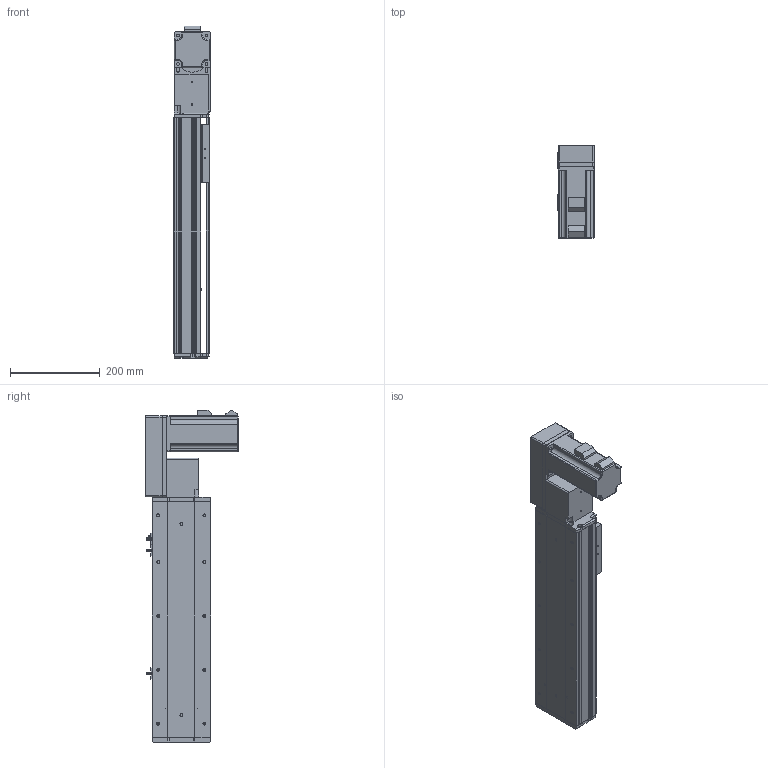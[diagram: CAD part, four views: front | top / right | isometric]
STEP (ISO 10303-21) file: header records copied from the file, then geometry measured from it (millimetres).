
FILE_DESCRIPTION (( 'STEP AP214' ), '1' );
FILE_NAME ('KSD130B-S300-MRB-CM .STEP', '2019-09-21T06:29:35', ( '微软用户' ), ( '微软中国' ), 'SwSTEP 2.0', 'SolidWorks 2014', '' );
FILE_SCHEMA (( 'AUTOMOTIVE_DESIGN' ));
Length unit declared in the file: millimetre
Products named in the file (12): KSD130B-S300-MRB-CM ; 侂狟750W侜督; 130宽模组保护罩上下左右折-同步带; 130宽模组马达安装板连板左右折同步带; U倰嫖萇EEㄜSX672; 覜茼え100遵圉猾敕; 130宽盖板半封闭同步带-300行程; 130宽马达安装板同步带右-改镜向_默认<按加工>; 130宽马达安装板同步带半封闭; 130宽同步带安装座半封闭; 130宽端盖同步带半封闭; 130宽底板半封闭同步带-300行程
Assembly tree (13 placements, depth 2):
  KSD130B-S300-MRB-CM 
    130宽底板半封闭同步带-300行程
    130宽端盖同步带半封闭
    130宽同步带安装座半封闭
    130宽马达安装板同步带半封闭
    130宽马达安装板同步带右-改镜向_默认<按加工>
    130宽盖板半封闭同步带-300行程
    覜茼え100遵圉猾敕
    U倰嫖萇EEㄜSX672  x3
    130宽模组马达安装板连板左右折同步带
    130宽模组保护罩上下左右折-同步带
    侂狟750W侜督
Bounding box: 81 x 206.5 x 740 mm (x, y, z)
Volume: 3222685.4 mm3; surface area: 787654.1 mm2
Topology: 13 solids, 13 shells, 1393 faces, 3872 edges, 2480 vertices
Faces by surface type: cylinder 634, plane 621, cone 122, torus 8, sphere 8
Entity records: 43463 total; most frequent: CARTESIAN_POINT 7671, DIRECTION 6764, ORIENTED_EDGE 6464, EDGE_CURVE 3232, AXIS2_PLACEMENT_3D 2433, VERTEX_POINT 2104, LINE 1898, VECTOR 1898
